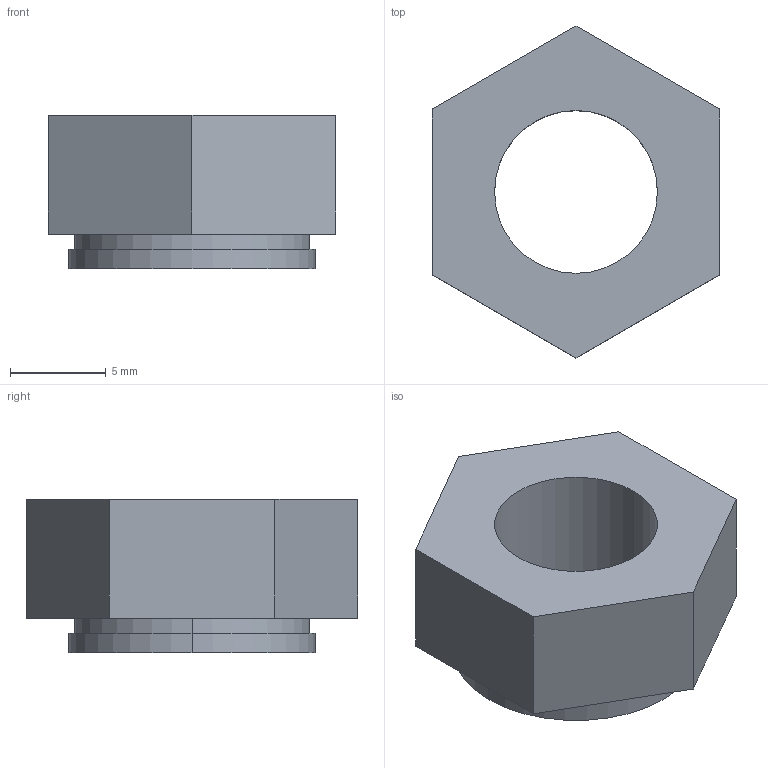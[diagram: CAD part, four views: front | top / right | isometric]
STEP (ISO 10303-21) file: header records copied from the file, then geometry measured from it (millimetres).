
FILE_DESCRIPTION (( 'STEP AP214' ), '1' );
FILE_NAME ('FO-00D-NCB-M10-020 FORMAT Ãàéêà M10 äëÿ çàïðåññîâêè â øèíó.STEP', '2025-09-02T06:56:17', ( '' ), ( '' ), 'SwSTEP 2.0', 'SolidWorks 2023', '' );
FILE_SCHEMA (( 'AUTOMOTIVE_DESIGN' ));
Length unit declared in the file: millimetre
Products named in the file (1): FO-00D-NCB-M10-020 FORMAT Гайка M10 для запрессовки в шину
Bounding box: 15 x 17.32 x 8 mm (x, y, z)
Volume: 978.1 mm3; surface area: 906.8 mm2
Topology: 1 solids, 1 shells, 16 faces, 36 edges, 24 vertices
Faces by surface type: plane 10, cylinder 6
Entity records: 479 total; most frequent: DIRECTION 82, CARTESIAN_POINT 77, ORIENTED_EDGE 72, EDGE_CURVE 36, AXIS2_PLACEMENT_3D 29, VERTEX_POINT 24, VECTOR 24, LINE 24
